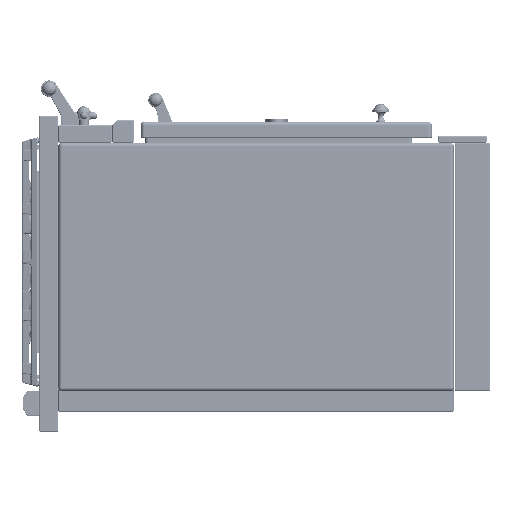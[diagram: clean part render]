
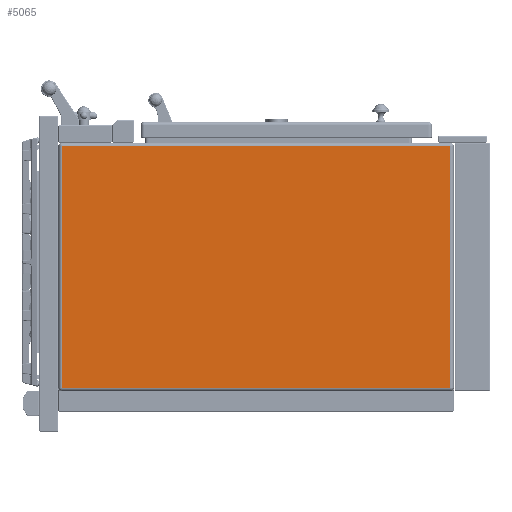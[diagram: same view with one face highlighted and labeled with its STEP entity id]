
A CAD part, left-side view. The second image highlights one B-rep face of the part: STEP entity #5065.
In plain terms, the highlighted planar face has unit normal (-1, 0, 0) as drawn and (1, 0, 0) by its records, which use the part's own axes.
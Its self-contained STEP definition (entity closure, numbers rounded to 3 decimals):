
#928=DIRECTION('',(0.,-1.,0.));
#929=VECTOR('',#928,801.);
#930=CARTESIAN_POINT('',(950.,883.,-249.));
#931=LINE('',#930,#929);
#932=DIRECTION('',(0.,0.,1.));
#933=VECTOR('',#932,498.);
#934=CARTESIAN_POINT('',(950.,82.,-249.));
#935=LINE('',#934,#933);
#936=DIRECTION('',(0.,1.,0.));
#937=VECTOR('',#936,801.);
#938=CARTESIAN_POINT('',(950.,82.,249.));
#939=LINE('',#938,#937);
#940=DIRECTION('',(0.,0.,-1.));
#941=VECTOR('',#940,498.);
#942=CARTESIAN_POINT('',(950.,883.,249.));
#943=LINE('',#942,#941);
#3186=CARTESIAN_POINT('',(950.,883.,-249.));
#3187=CARTESIAN_POINT('',(950.,82.,-249.));
#3188=VERTEX_POINT('',#3186);
#3189=VERTEX_POINT('',#3187);
#3208=CARTESIAN_POINT('',(950.,82.,249.));
#3209=VERTEX_POINT('',#3208);
#3214=CARTESIAN_POINT('',(950.,883.,249.));
#3215=VERTEX_POINT('',#3214);
#5053=CARTESIAN_POINT('',(950.,0.,0.));
#5054=DIRECTION('',(-1.,0.,0.));
#5055=DIRECTION('',(0.,0.,1.));
#5056=AXIS2_PLACEMENT_3D('',#5053,#5054,#5055);
#5057=PLANE('',#5056);
#5058=ORIENTED_EDGE('',*,*,#4478,.T.);
#5059=ORIENTED_EDGE('',*,*,#4521,.T.);
#5061=ORIENTED_EDGE('',*,*,#5060,.T.);
#5062=ORIENTED_EDGE('',*,*,#5021,.T.);
#5063=EDGE_LOOP('',(#5058,#5059,#5061,#5062));
#5064=FACE_OUTER_BOUND('',#5063,.F.);
#4478=EDGE_CURVE('',#3188,#3189,#931,.T.);
#4521=EDGE_CURVE('',#3189,#3209,#935,.T.);
#5021=EDGE_CURVE('',#3215,#3188,#943,.T.);
#5060=EDGE_CURVE('',#3209,#3215,#939,.T.);
#5065=ADVANCED_FACE('',(#5064),#5057,.F.);
